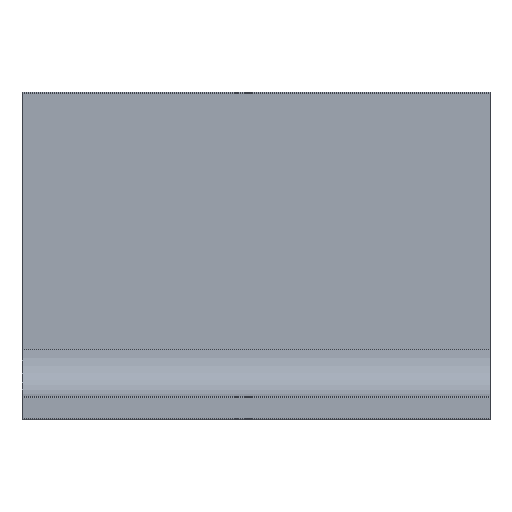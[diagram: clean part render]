
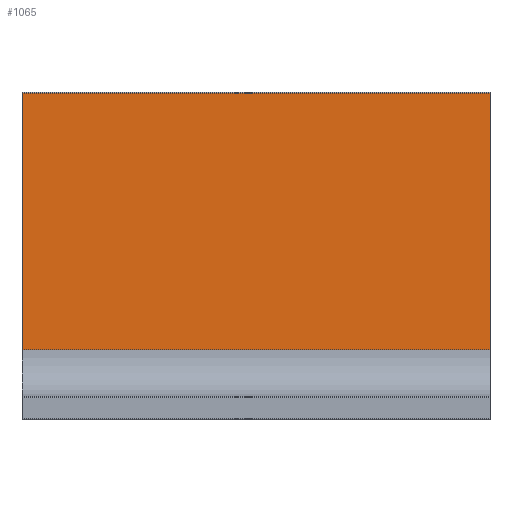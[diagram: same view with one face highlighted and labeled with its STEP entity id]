
A CAD part, front view. The second image highlights one B-rep face of the part: STEP entity #1065.
In plain terms, the highlighted planar face has unit normal (0, -1, 0).
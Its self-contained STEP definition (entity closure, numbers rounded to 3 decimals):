
#28 = EDGE_CURVE ( 'NONE', #42, #355, #180, .T. ) ;
#34 = LINE ( 'NONE', #594, #802 ) ;
#42 = VERTEX_POINT ( 'NONE', #74 ) ;
#74 = CARTESIAN_POINT ( 'NONE',  ( -50., 60., -40. ) ) ;
#92 = DIRECTION ( 'NONE',  ( 0., 0., -1. ) ) ;
#99 = CARTESIAN_POINT ( 'NONE',  ( -50., 60., 69.5 ) ) ;
#118 = VERTEX_POINT ( 'NONE', #631 ) ;
#141 = CARTESIAN_POINT ( 'NONE',  ( -50., 60., 69.5 ) ) ;
#152 = EDGE_CURVE ( 'NONE', #796, #118, #815, .T. ) ;
#180 = LINE ( 'NONE', #744, #1142 ) ;
#203 = PLANE ( 'NONE',  #1186 ) ;
#240 = DIRECTION ( 'NONE',  ( 1., 0., 0. ) ) ;
#270 = DIRECTION ( 'NONE',  ( 1., 0., 0. ) ) ;
#355 = VERTEX_POINT ( 'NONE', #479 ) ;
#397 = LINE ( 'NONE', #141, #647 ) ;
#479 = CARTESIAN_POINT ( 'NONE',  ( 150., 60., -40. ) ) ;
#555 = ORIENTED_EDGE ( 'NONE', *, *, #967, .T. ) ;
#594 = CARTESIAN_POINT ( 'NONE',  ( 150., 60., 69.5 ) ) ;
#614 = ORIENTED_EDGE ( 'NONE', *, *, #1051, .F. ) ;
#631 = CARTESIAN_POINT ( 'NONE',  ( 150., 60., 69.5 ) ) ;
#647 = VECTOR ( 'NONE', #1189, 1000. ) ;
#657 = ORIENTED_EDGE ( 'NONE', *, *, #152, .F. ) ;
#744 = CARTESIAN_POINT ( 'NONE',  ( -50., 60., -40. ) ) ;
#752 = CARTESIAN_POINT ( 'NONE',  ( -50., 60., 69.5 ) ) ;
#758 = FACE_OUTER_BOUND ( 'NONE', #791, .T. ) ;
#775 = DIRECTION ( 'NONE',  ( 0., -1., 0. ) ) ;
#791 = EDGE_LOOP ( 'NONE', ( #614, #657, #555, #808 ) ) ;
#792 = VECTOR ( 'NONE', #240, 1000. ) ;
#796 = VERTEX_POINT ( 'NONE', #752 ) ;
#802 = VECTOR ( 'NONE', #1140, 1000. ) ;
#808 = ORIENTED_EDGE ( 'NONE', *, *, #28, .T. ) ;
#815 = LINE ( 'NONE', #980, #792 ) ;
#967 = EDGE_CURVE ( 'NONE', #796, #42, #397, .T. ) ;
#980 = CARTESIAN_POINT ( 'NONE',  ( -50., 60., 69.5 ) ) ;
#1051 = EDGE_CURVE ( 'NONE', #118, #355, #34, .T. ) ;
#1065 = ADVANCED_FACE ( 'NONE', ( #758 ), #203, .T. ) ;
#1140 = DIRECTION ( 'NONE',  ( 0., 0., -1. ) ) ;
#1142 = VECTOR ( 'NONE', #270, 1000. ) ;
#1186 = AXIS2_PLACEMENT_3D ( 'NONE', #99, #775, #92 ) ;
#1189 = DIRECTION ( 'NONE',  ( 0., 0., -1. ) ) ;
